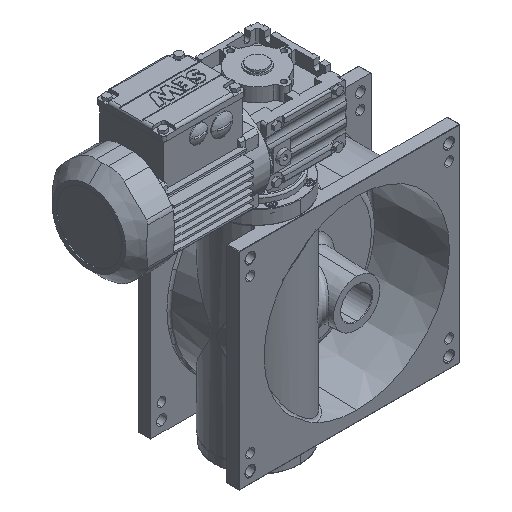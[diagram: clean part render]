
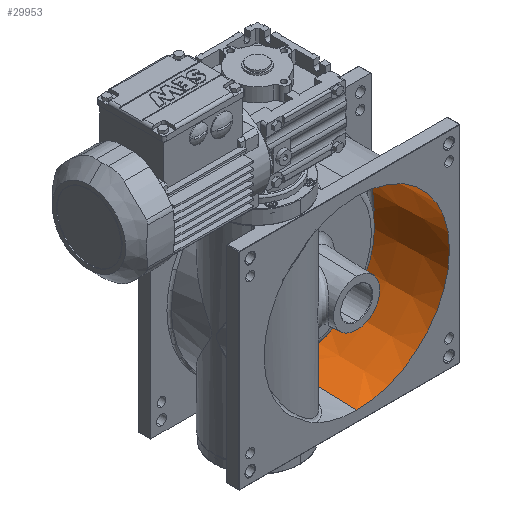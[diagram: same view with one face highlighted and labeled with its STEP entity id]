
A CAD part, isometric view. The second image highlights one B-rep face of the part: STEP entity #29953.
In plain terms, the highlighted conical face has half-angle 2 degrees and reference radius 104.105 mm.
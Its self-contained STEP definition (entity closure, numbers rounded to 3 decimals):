
#3669 = FACE_OUTER_BOUND ( 'NONE', #11131, .T. ) ;
#3757 = VECTOR ( 'NONE', #65045, 1000. ) ;
#10982 = DIRECTION ( 'NONE',  ( 0., 0., -1. ) ) ;
#11131 = EDGE_LOOP ( 'NONE', ( #65631, #56885, #28891, #43574 ) ) ;
#14031 = CONICAL_SURFACE ( 'NONE', #73527, 104.105, 0.035 ) ;
#16671 = CARTESIAN_POINT ( 'NONE',  ( 0., 0., 0. ) ) ;
#17980 = EDGE_CURVE ( 'NONE', #39543, #51984, #53165, .T. ) ;
#25611 = CARTESIAN_POINT ( 'NONE',  ( 0., 3., 104. ) ) ;
#25643 = EDGE_CURVE ( 'NONE', #61663, #51984, #26215, .T. ) ;
#26215 = CIRCLE ( 'NONE', #71503, 104. ) ;
#27277 = DIRECTION ( 'NONE',  ( 0., -0.999, -0.035 ) ) ;
#28891 = ORIENTED_EDGE ( 'NONE', *, *, #17980, .T. ) ;
#29316 = CARTESIAN_POINT ( 'NONE',  ( 0., 84.705, -101.147 ) ) ;
#29953 = ADVANCED_FACE ( 'NONE', ( #3669 ), #14031, .F. ) ;
#30842 = CARTESIAN_POINT ( 'NONE',  ( 0., 84.705, 0. ) ) ;
#31074 = VERTEX_POINT ( 'NONE', #70967 ) ;
#35158 = CIRCLE ( 'NONE', #77903, 101.147 ) ;
#39543 = VERTEX_POINT ( 'NONE', #29316 ) ;
#39980 = CARTESIAN_POINT ( 'NONE',  ( 0., 0., 104.105 ) ) ;
#41826 = DIRECTION ( 'NONE',  ( 0., -1., 0. ) ) ;
#43402 = CARTESIAN_POINT ( 'NONE',  ( 0., 3., -104. ) ) ;
#43574 = ORIENTED_EDGE ( 'NONE', *, *, #25643, .F. ) ;
#43639 = DIRECTION ( 'NONE',  ( 0., 0., -1. ) ) ;
#48815 = EDGE_CURVE ( 'NONE', #31074, #61663, #58938, .T. ) ;
#49666 = CARTESIAN_POINT ( 'NONE',  ( 0., 3., 0. ) ) ;
#51984 = VERTEX_POINT ( 'NONE', #43402 ) ;
#52777 = CARTESIAN_POINT ( 'NONE',  ( 0., 0., -104.105 ) ) ;
#53165 = LINE ( 'NONE', #52777, #70776 ) ;
#55472 = EDGE_CURVE ( 'NONE', #31074, #39543, #35158, .T. ) ;
#55531 = DIRECTION ( 'NONE',  ( 0., 1., 0. ) ) ;
#56885 = ORIENTED_EDGE ( 'NONE', *, *, #55472, .T. ) ;
#56947 = DIRECTION ( 'NONE',  ( 0., 1., 0. ) ) ;
#58938 = LINE ( 'NONE', #39980, #3757 ) ;
#61663 = VERTEX_POINT ( 'NONE', #25611 ) ;
#65045 = DIRECTION ( 'NONE',  ( 0., -0.999, 0.035 ) ) ;
#65631 = ORIENTED_EDGE ( 'NONE', *, *, #48815, .F. ) ;
#70776 = VECTOR ( 'NONE', #27277, 1000. ) ;
#70967 = CARTESIAN_POINT ( 'NONE',  ( 0., 84.705, 101.147 ) ) ;
#71503 = AXIS2_PLACEMENT_3D ( 'NONE', #49666, #56947, #43639 ) ;
#73527 = AXIS2_PLACEMENT_3D ( 'NONE', #16671, #41826, #10982 ) ;
#77903 = AXIS2_PLACEMENT_3D ( 'NONE', #30842, #55531, #80275 ) ;
#80275 = DIRECTION ( 'NONE',  ( 0., 0., 1. ) ) ;
